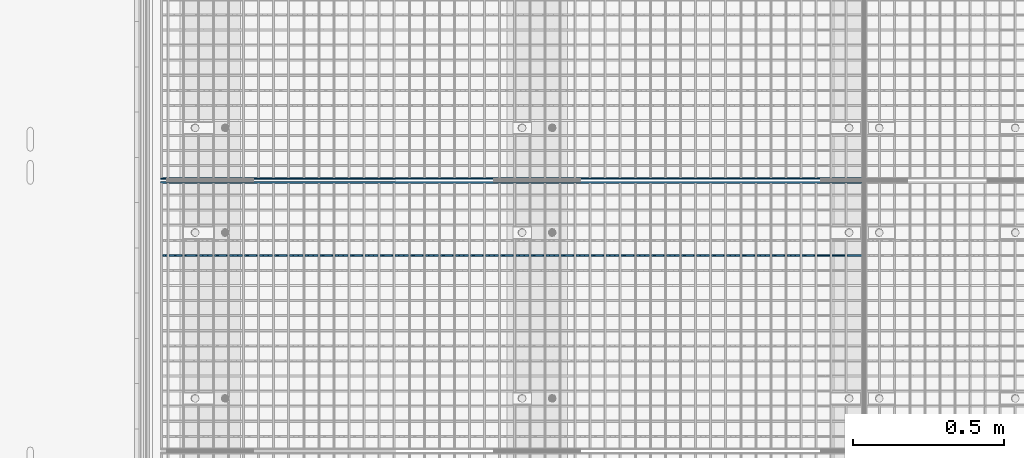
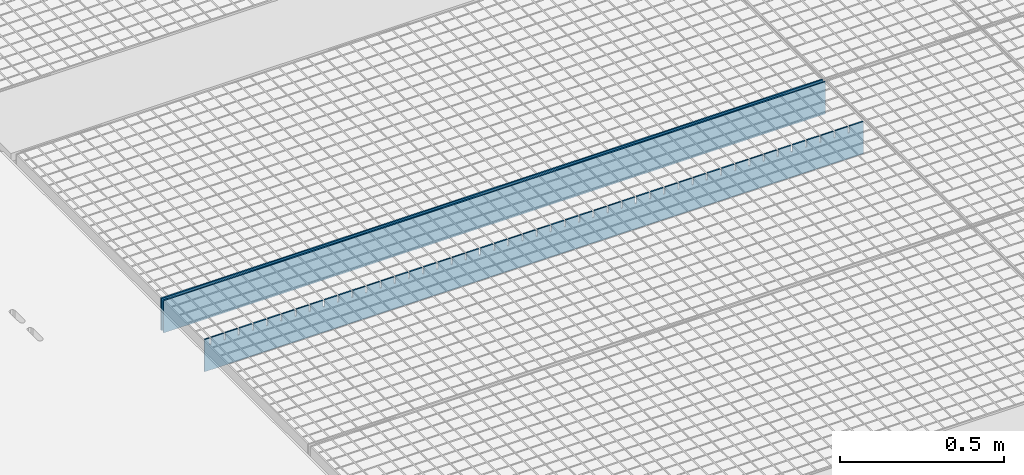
# One storey, part 307 of 1530: 3 beams.
"""IFC2X3 building model written with IfcOpenShell, lengths in millimetres."""

from ifc_helpers import new_model, si_unit, frame, origin_with_axes, place, context, subcontext, project, spatial, faceted_brep, material, type_object, element, save


model = new_model("IFC2X3")

# Units and contexts
model_context = context("Model", 3, precision=1e-05, world=origin_with_axes())
body_context = subcontext(model_context, "Body", "Model", "MODEL_VIEW")
ifc_project = project(units=[si_unit("LENGTHUNIT", "METRE", prefix="MILLI"), si_unit("AREAUNIT", "SQUARE_METRE"), si_unit("VOLUMEUNIT", "CUBIC_METRE"), si_unit("MASSUNIT", "GRAM", prefix="KILO"), si_unit("TIMEUNIT", "SECOND"), si_unit("PLANEANGLEUNIT", "RADIAN"), si_unit("SOLIDANGLEUNIT", "STERADIAN"), si_unit("THERMODYNAMICTEMPERATUREUNIT", "DEGREE_CELSIUS"), si_unit("LUMINOUSINTENSITYUNIT", "LUMEN")], contexts=[model_context])

# Site, building, storey
site_placement = place(None, origin_with_axes())
site = spatial("IfcSite", under=ifc_project, at=site_placement, Name="Brattvåg", CompositionType="ELEMENT")
building_placement = place(site_placement, origin_with_axes())
building = spatial("IfcBuilding", under=site, at=building_placement, Name="Undefined", CompositionType="ELEMENT")
storey_placement = place(building_placement, origin_with_axes())
storey = spatial("IfcBuildingStorey", under=building, at=storey_placement, Name="Undefined", CompositionType="ELEMENT", Elevation=0.0)

# Beams
ifc_material = material(Name="STEEL/S355J2")
beam_type = type_object("IfcBeamType", Name="120*5", PredefinedType="NOTDEFINED")
beam_placement = place(storey_placement, frame((2347.01317977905, 4699.9952545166, -59.9998626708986), z_axis=(0.0, 0.0, 1.0), x_axis=(-1.0, 1.99999855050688e-09, 0.0)))
element("IfcBeam", 1, at=beam_placement, inside=storey, type_object=beam_type, material=ifc_material, Name="GRATING", context=body_context, shape_type="Brep", body=[
    faceted_brep([(99.4490367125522, -2.50000000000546, 60.0000722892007), (99.4490367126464, -2.50000000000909, 35.0001373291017), (99.4490367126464, 2.50022888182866, 35.0001373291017), (99.4490367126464, 2.5, 60.0), (104.449036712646, -2.50000000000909, 35.0001373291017), (104.449036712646, 2.50022888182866, 35.0001373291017), (104.449036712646, -2.50000000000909, 60.0001373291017), (104.449036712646, 2.5, 60.0), (54.5084370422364, -2.50000000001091, 60.0001373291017), (54.5084370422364, 2.5, 60.0), (54.5084370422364, 2.49999999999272, 35.0001373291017), (54.5084370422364, -2.50000000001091, 35.0001373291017), (49.5084370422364, 2.49999999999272, 35.0001373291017), (49.5084370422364, -2.50000000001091, 35.0001373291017), (49.5084370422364, -2.5, 60.0), (49.5084370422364, 2.5, 60.0), (0.0, 2.5, 60.0), (0.0, -2.5, 60.0), (0.0, -2.5, -60.0), (0.0, 2.5, -60.0), (2319.99865722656, 2.5, -60.0), (2319.99865722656, -2.5, -60.0), (2319.99865722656, -2.5, 60.0), (2319.99865722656, 2.5, 60.0), (2302.24871932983, 2.5, 60.0), (2302.24871932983, -2.50000000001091, 60.0001373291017), (2302.24871932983, 2.49999999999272, 35.0001373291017), (2302.24871932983, -2.50000000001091, 35.0001373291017), (2297.24871932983, 2.49999999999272, 35.0001373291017), (2297.24871932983, -2.50000000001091, 35.0001373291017), (2297.24871932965, -2.50000000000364, 60.0000461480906), (2297.24871932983, 2.5, 60.0), (2252.29859649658, 2.5, 60.0), (2252.29859649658, -2.50000000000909, 60.0001373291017), (2252.29859649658, 2.50022888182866, 35.0001373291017), (2252.29859649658, -2.50000000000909, 35.0001373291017), (2247.29859649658, 2.50022888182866, 35.0001373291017), (2247.29859649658, -2.50000000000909, 35.0001373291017), (2247.29859649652, -2.50000000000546, 60.0000848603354), (2247.29859649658, 2.5, 60.0), (2202.34847366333, 2.5, 60.0), (2202.34847366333, -2.50000000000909, 60.0001373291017), (2202.34847366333, 2.50022888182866, 35.0001373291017), (2202.34847366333, -2.50000000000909, 35.0001373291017), (2197.34847366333, 2.50022888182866, 35.0001373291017), (2197.34847366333, -2.50000000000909, 35.0001373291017), (2197.34847366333, -2.5, 60.0), (2197.34847366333, 2.5, 60.0), (2152.39882766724, 2.5, 60.0), (2152.39882766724, -2.50000000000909, 60.0001373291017), (2152.39882766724, 2.50022888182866, 35.0001373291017), (2152.39882766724, -2.50000000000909, 35.0001373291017), (2147.39882766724, 2.50022888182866, 35.0001373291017), (2147.39882766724, -2.50000000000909, 35.0001373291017), (2147.39882766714, -2.50000000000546, 60.0000722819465), (2147.39882766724, 2.5, 60.0), (2102.44870483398, 2.5, 60.0), (2102.44870483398, -2.50000000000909, 60.0001373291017), (2102.44870483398, 2.50022888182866, 35.0001373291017), (2102.44870483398, -2.50000000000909, 35.0001373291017), (2097.44870483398, 2.50022888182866, 35.0001373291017), (2097.44870483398, -2.50000000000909, 35.0001373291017), (2097.44870483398, -2.5, 60.0), (2097.44870483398, 2.5, 60.0), (2052.49858200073, 2.5, 60.0), (2052.49858200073, -2.50000000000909, 60.0001373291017), (2052.49858200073, 2.50022888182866, 35.0001373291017), (2052.49858200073, -2.50000000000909, 35.0001373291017), (2047.49858200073, 2.50022888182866, 35.0001373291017), (2047.49858200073, -2.50000000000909, 35.0001373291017), (2047.49858200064, -2.50000000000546, 60.0000722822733), (2047.49858200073, 2.5, 60.0), (2002.54845916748, 2.5, 60.0), (2002.54845916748, -2.50000000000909, 60.0001373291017), (2002.54845916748, 2.50022888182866, 35.0001373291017), (2002.54845916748, -2.50000000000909, 35.0001373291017), (1997.54845916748, 2.50022888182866, 35.0001373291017), (1997.54845916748, -2.50000000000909, 35.0001373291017), (1997.54845916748, -2.5, 60.0), (1997.54845916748, 2.5, 60.0), (1952.59881317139, 2.5, 60.0), (1952.59881317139, -2.50000000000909, 60.0001373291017), (1952.59881317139, 2.50022888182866, 35.0001373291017), (1952.59881317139, -2.50000000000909, 35.0001373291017), (1947.59881317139, 2.50022888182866, 35.0001373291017), (1947.59881317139, -2.50000000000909, 35.0001373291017), (1947.59881317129, -2.50000000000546, 60.0000722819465), (1947.59881317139, 2.5, 60.0), (1902.64869033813, 2.5, 60.0), (1902.64869033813, -2.50000000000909, 60.0001373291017), (1902.64869033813, 2.50022888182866, 35.0001373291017), (1902.64869033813, -2.50000000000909, 35.0001373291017), (1897.64869033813, 2.50022888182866, 35.0001373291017), (1897.64869033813, -2.50000000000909, 35.0001373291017), (1897.64869033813, -2.5, 60.0), (1897.64869033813, 2.5, 60.0), (1852.69856750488, 2.5, 60.0), (1852.69856750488, -2.50000000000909, 60.0001373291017), (1852.69856750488, 2.50022888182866, 35.0001373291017), (1852.69856750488, -2.50000000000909, 35.0001373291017), (1847.69856750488, 2.50022888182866, 35.0001373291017), (1847.69856750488, -2.50000000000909, 35.0001373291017), (1847.69856750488, -2.5, 60.0), (1847.69856750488, 2.5, 60.0), (1802.74892150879, 2.5, 60.0), (1802.74892150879, -2.50000000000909, 60.0001373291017), (1802.74892150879, 2.50022888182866, 35.0001373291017), (1802.74892150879, -2.50000000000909, 35.0001373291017), (1797.74892150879, 2.50022888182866, 35.0001373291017), (1797.74892150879, -2.50000000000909, 35.0001373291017), (1797.74892150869, -2.50000000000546, 60.0000722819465), (1797.74892150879, 2.5, 60.0), (1752.79879867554, 2.5, 60.0), (1752.79879867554, -2.50000000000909, 60.0001373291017), (1752.79879867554, 2.50022888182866, 35.0001373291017), (1752.79879867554, -2.50000000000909, 35.0001373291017), (1747.79879867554, 2.50022888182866, 35.0001373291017), (1747.79879867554, -2.50000000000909, 35.0001373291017), (1747.79879867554, -2.5, 60.0), (1747.79879867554, 2.5, 60.0), (1702.84867584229, 2.5, 60.0), (1702.84867584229, -2.50000000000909, 60.0001373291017), (1702.84867584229, 2.50022888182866, 35.0001373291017), (1702.84867584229, -2.50000000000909, 35.0001373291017), (1697.84867584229, 2.50022888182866, 35.0001373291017), (1697.84867584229, -2.50000000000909, 35.0001373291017), (1697.84867584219, -2.50000000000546, 60.0000722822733), (1697.84867584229, 2.5, 60.0), (1652.89855300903, 2.5, 60.0), (1652.89855300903, -2.50000000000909, 60.0001373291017), (1652.89855300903, 2.50022888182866, 35.0001373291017), (1652.89855300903, -2.50000000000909, 35.0001373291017), (1647.89855300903, 2.50022888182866, 35.0001373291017), (1647.89855300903, -2.50000000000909, 35.0001373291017), (1647.89855300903, -2.5, 60.0), (1647.89855300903, 2.5, 60.0), (1602.94890701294, 2.5, 60.0), (1602.94890701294, -2.50000000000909, 60.0001373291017), (1602.94890701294, 2.50022888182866, 35.0001373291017), (1602.94890701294, -2.50000000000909, 35.0001373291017), (1597.94890701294, 2.50022888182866, 35.0001373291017), (1597.94890701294, -2.50000000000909, 35.0001373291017), (1597.94890701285, -2.50000000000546, 60.0000722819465), (1597.94890701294, 2.5, 60.0), (1552.99878417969, 2.5, 60.0), (1552.99878417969, -2.50000000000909, 60.0001373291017), (1552.99878417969, 2.50022888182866, 35.0001373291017), (1552.99878417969, -2.50000000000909, 35.0001373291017), (1547.99878417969, 2.50022888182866, 35.0001373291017), (1547.99878417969, -2.50000000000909, 35.0001373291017), (1547.99878417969, -2.5, 60.0), (1547.99878417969, 2.5, 60.0), (1503.04866134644, 2.5, 60.0), (1503.04866134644, -2.50000000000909, 60.0001373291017), (1503.04866134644, 2.50022888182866, 35.0001373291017), (1503.04866134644, -2.50000000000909, 35.0001373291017), (1498.04866134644, 2.50022888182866, 35.0001373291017), (1498.04866134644, -2.50000000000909, 35.0001373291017), (1498.04866134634, -2.50000000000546, 60.0000722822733), (1498.04866134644, 2.5, 60.0), (1453.09853851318, 2.5, 60.0), (1453.09853851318, -2.50000000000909, 60.0001373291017), (1453.09853851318, 2.50022888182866, 35.0001373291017), (1453.09853851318, -2.50000000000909, 35.0001373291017), (1448.09853851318, 2.50022888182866, 35.0001373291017), (1448.09853851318, -2.50000000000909, 35.0001373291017), (1448.09853851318, -2.5, 60.0), (1448.09853851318, 2.5, 60.0), (1403.14889251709, 2.5, 60.0), (1403.14889251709, -2.50000000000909, 60.0001373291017), (1403.14889251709, 2.50022888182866, 35.0001373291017), (1403.14889251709, -2.50000000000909, 35.0001373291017), (1398.14889251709, 2.50022888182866, 35.0001373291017), (1398.14889251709, -2.50000000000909, 35.0001373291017), (1398.148892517, -2.50000000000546, 60.0000722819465), (1398.14889251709, 2.5, 60.0), (1353.19876968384, 2.5, 60.0), (1353.19876968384, -2.50000000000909, 60.0001373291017), (1353.19876968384, 2.50022888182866, 35.0001373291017), (1353.19876968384, -2.50000000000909, 35.0001373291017), (1348.19876968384, 2.50022888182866, 35.0001373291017), (1348.19876968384, -2.50000000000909, 35.0001373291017), (1348.19876968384, -2.5, 60.0), (1348.19876968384, 2.5, 60.0), (1303.24864685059, 2.5, 60.0), (1303.24864685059, -2.50000000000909, 60.0001373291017), (1303.24864685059, 2.50022888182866, 35.0001373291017), (1303.24864685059, -2.50000000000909, 35.0001373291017), (1298.24864685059, 2.50022888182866, 35.0001373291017), (1298.24864685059, -2.50000000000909, 35.0001373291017), (1298.24864685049, -2.50000000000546, 60.0000722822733), (1298.24864685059, 2.5, 60.0), (1253.29852401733, 2.5, 60.0), (1253.29852401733, -2.50000000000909, 60.0001373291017), (1253.29852401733, 2.50022888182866, 35.0001373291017), (1253.29852401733, -2.50000000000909, 35.0001373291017), (1248.29852401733, 2.50022888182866, 35.0001373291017), (1248.29852401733, -2.50000000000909, 35.0001373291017), (1248.29852401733, -2.5, 60.0), (1248.29852401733, 2.5, 60.0), (1203.34887802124, 2.5, 60.0), (1203.34887802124, -2.50000000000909, 60.0001373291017), (1203.34887802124, 2.50022888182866, 35.0001373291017), (1203.34887802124, -2.50000000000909, 35.0001373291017), (1198.34887802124, 2.50022888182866, 35.0001373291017), (1198.34887802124, -2.50000000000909, 35.0001373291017), (1198.34887802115, -2.50000000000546, 60.0000722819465), (1198.34887802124, 2.5, 60.0), (1153.39875518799, 2.5, 60.0), (1153.39875518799, -2.50000000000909, 60.0001373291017), (1153.39875518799, 2.50022888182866, 35.0001373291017), (1153.39875518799, -2.50000000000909, 35.0001373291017), (1148.39875518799, 2.50022888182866, 35.0001373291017), (1148.39875518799, -2.50000000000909, 35.0001373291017), (1148.39875518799, -2.5, 60.0), (1148.39875518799, 2.5, 60.0), (1103.44863235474, 2.5, 60.0), (1103.44863235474, -2.50000000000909, 60.0001373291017), (1103.44863235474, 2.50022888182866, 35.0001373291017), (1103.44863235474, -2.50000000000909, 35.0001373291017), (1098.44863235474, 2.50022888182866, 35.0001373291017), (1098.44863235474, -2.50000000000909, 35.0001373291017), (1098.44863235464, -2.50000000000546, 60.0000722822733), (1098.44863235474, 2.5, 60.0), (1053.49850952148, 2.5, 60.0), (1053.49850952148, -2.50000000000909, 60.0001373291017), (1053.49850952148, 2.50022888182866, 35.0001373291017), (1053.49850952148, -2.50000000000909, 35.0001373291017), (1048.49850952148, 2.50022888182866, 35.0001373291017), (1048.49850952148, -2.50000000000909, 35.0001373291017), (1048.49850952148, -2.5, 60.0), (1048.49850952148, 2.5, 60.0), (1003.54886352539, 2.5, 60.0), (1003.54886352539, -2.50000000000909, 60.0001373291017), (1003.54886352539, 2.50022888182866, 35.0001373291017), (1003.54886352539, -2.50000000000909, 35.0001373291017), (998.548863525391, 2.50022888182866, 35.0001373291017), (998.548863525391, -2.50000000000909, 35.0001373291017), (998.548863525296, -2.50000000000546, 60.0000722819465), (998.548863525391, 2.5, 60.0), (953.598740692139, 2.5, 60.0), (953.598740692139, -2.50000000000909, 60.0001373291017), (953.598740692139, 2.50022888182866, 35.0001373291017), (953.598740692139, -2.50000000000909, 35.0001373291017), (948.598740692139, 2.50022888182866, 35.0001373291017), (948.598740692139, -2.50000000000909, 35.0001373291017), (948.598740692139, -2.5, 60.0), (948.598740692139, 2.5, 60.0), (903.648617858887, 2.5, 60.0), (903.648617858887, -2.50000000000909, 60.0001373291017), (903.648617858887, 2.50022888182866, 35.0001373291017), (903.648617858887, -2.50000000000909, 35.0001373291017), (898.648617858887, 2.50022888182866, 35.0001373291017), (898.648617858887, -2.50000000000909, 35.0001373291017), (898.648617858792, -2.50000000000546, 60.0000722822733), (898.648617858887, 2.5, 60.0), (853.698495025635, 2.5, 60.0), (853.698495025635, -2.50000000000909, 60.0001373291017), (853.698495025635, 2.50022888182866, 35.0001373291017), (853.698495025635, -2.50000000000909, 35.0001373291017), (848.698495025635, 2.50022888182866, 35.0001373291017), (848.698495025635, -2.50000000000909, 35.0001373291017), (848.698495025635, -2.5, 60.0), (848.698495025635, 2.5, 60.0), (803.748849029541, 2.5, 60.0), (803.748849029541, -2.50000000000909, 60.0001373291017), (803.748849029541, 2.50022888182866, 35.0001373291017), (803.748849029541, -2.50000000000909, 35.0001373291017), (798.748849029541, 2.50022888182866, 35.0001373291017), (798.748849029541, -2.50000000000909, 35.0001373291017), (798.748849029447, -2.50000000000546, 60.0000722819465), (798.748849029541, 2.5, 60.0), (753.798726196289, 2.5, 60.0), (753.798726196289, -2.50000000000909, 60.0001373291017), (753.798726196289, 2.50022888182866, 35.0001373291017), (753.798726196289, -2.50000000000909, 35.0001373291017), (748.798726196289, 2.50022888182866, 35.0001373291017), (748.798726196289, -2.50000000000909, 35.0001373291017), (748.798726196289, -2.5, 60.0), (748.798726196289, 2.5, 60.0), (703.848603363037, 2.5, 60.0), (703.848603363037, -2.50000000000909, 60.0001373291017), (703.848603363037, 2.50022888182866, 35.0001373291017), (703.848603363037, -2.50000000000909, 35.0001373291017), (698.848603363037, 2.50022888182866, 35.0001373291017), (698.848603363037, -2.50000000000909, 35.0001373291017), (698.848603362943, -2.50000000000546, 60.0000722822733), (698.848603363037, 2.5, 60.0), (653.898480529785, 2.5, 60.0), (653.898480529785, -2.50000000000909, 60.0001373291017), (653.898480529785, 2.50022888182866, 35.0001373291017), (653.898480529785, -2.50000000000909, 35.0001373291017), (648.898480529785, 2.50022888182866, 35.0001373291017), (648.898480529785, -2.50000000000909, 35.0001373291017), (648.898480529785, -2.5, 60.0), (648.898480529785, 2.5, 60.0), (603.948834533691, 2.5, 60.0), (603.948834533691, -2.50000000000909, 60.0001373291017), (603.948834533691, 2.50022888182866, 35.0001373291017), (603.948834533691, -2.50000000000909, 35.0001373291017), (598.948834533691, 2.50022888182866, 35.0001373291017), (598.948834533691, -2.50000000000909, 35.0001373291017), (598.948834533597, -2.50000000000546, 60.0000722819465), (598.948834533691, 2.5, 60.0), (553.998711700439, 2.5, 60.0), (553.998711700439, -2.50000000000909, 60.0001373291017), (553.998711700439, 2.50022888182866, 35.0001373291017), (553.998711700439, -2.50000000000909, 35.0001373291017), (548.998711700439, 2.50022888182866, 35.0001373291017), (548.998711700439, -2.50000000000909, 35.0001373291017), (548.998711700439, -2.5, 60.0), (548.998711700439, 2.5, 60.0), (504.048588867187, 2.5, 60.0), (504.048588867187, -2.50000000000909, 60.0001373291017), (504.048588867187, 2.50022888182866, 35.0001373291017), (504.048588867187, -2.50000000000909, 35.0001373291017), (499.048588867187, 2.50022888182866, 35.0001373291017), (499.048588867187, -2.50000000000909, 35.0001373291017), (499.048588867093, -2.50000000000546, 60.0000722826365), (499.048588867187, 2.5, 60.0), (454.098942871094, 2.5, 60.0), (454.098942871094, -2.50000000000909, 60.0001373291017), (454.098942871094, 2.50022888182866, 35.0001373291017), (454.098942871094, -2.50000000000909, 35.0001373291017), (449.098942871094, 2.50022888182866, 35.0001373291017), (449.098942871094, -2.50000000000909, 35.0001373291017), (449.098942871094, -2.5, 60.0), (449.098942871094, 2.5, 60.0), (404.148820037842, 2.5, 60.0), (404.148820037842, -2.50000000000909, 60.0001373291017), (404.148820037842, 2.50022888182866, 35.0001373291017), (404.148820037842, -2.50000000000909, 35.0001373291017), (399.148820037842, 2.50022888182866, 35.0001373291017), (399.148820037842, -2.50000000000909, 35.0001373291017), (399.148820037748, -2.50000000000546, 60.0000722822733), (399.148820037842, 2.5, 60.0), (354.19869720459, 2.5, 60.0), (354.19869720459, -2.50000000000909, 60.0001373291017), (354.19869720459, 2.50022888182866, 35.0001373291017), (354.19869720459, -2.50000000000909, 35.0001373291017), (349.19869720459, 2.50022888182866, 35.0001373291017), (349.19869720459, -2.50000000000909, 35.0001373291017), (349.19869720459, -2.5, 60.0), (349.19869720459, 2.5, 60.0), (304.248574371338, 2.5, 60.0), (304.248574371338, -2.50000000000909, 60.0001373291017), (304.248574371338, 2.50022888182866, 35.0001373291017), (304.248574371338, -2.50000000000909, 35.0001373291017), (299.248574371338, 2.50022888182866, 35.0001373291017), (299.248574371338, -2.50000000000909, 35.0001373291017), (299.248574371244, -2.50000000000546, 60.0000722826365), (299.248574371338, 2.5, 60.0), (254.298928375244, 2.5, 60.0), (254.298928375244, -2.50000000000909, 60.0001373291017), (254.298928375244, 2.50022888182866, 35.0001373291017), (254.298928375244, -2.50000000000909, 35.0001373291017), (249.298928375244, 2.50022888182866, 35.0001373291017), (249.298928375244, -2.50000000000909, 35.0001373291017), (249.298928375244, -2.5, 60.0), (249.298928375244, 2.5, 60.0), (204.348328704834, 2.5, 60.0), (204.348328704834, -2.50000000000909, 60.0001373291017), (204.348328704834, 2.50022888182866, 35.0001373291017), (204.348328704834, -2.50000000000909, 35.0001373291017), (199.348328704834, 2.50022888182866, 35.0001373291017), (199.348328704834, -2.50000000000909, 35.0001373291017), (199.34832870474, -2.50000000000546, 60.0000722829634), (199.348328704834, 2.5, 60.0), (154.39868270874, 2.5, 60.0), (154.39868270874, -2.50000000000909, 60.0001373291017), (154.39868270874, 2.50022888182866, 35.0001373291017), (154.39868270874, -2.50000000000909, 35.0001373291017), (149.39868270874, 2.50022888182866, 35.0001373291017), (149.39868270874, -2.50000000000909, 35.0001373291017), (149.39868270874, -2.5, 60.0), (149.39868270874, 2.5, 60.0)], [[[0, 1, 2, 3]], [[4, 5, 2, 1]], [[6, 7, 5, 4]], [[8, 9, 10, 11]], [[11, 10, 12, 13]], [[14, 13, 12, 15]], [[16, 17, 14, 15]], [[18, 17, 16, 19]], [[18, 19, 20, 21]], [[22, 21, 20, 23]], [[22, 23, 24, 25]], [[25, 24, 26, 27]], [[27, 26, 28, 29]], [[30, 29, 28, 31]], [[32, 33, 30, 31]], [[33, 32, 34, 35]], [[35, 34, 36, 37]], [[38, 37, 36, 39]], [[40, 41, 38, 39]], [[41, 40, 42, 43]], [[43, 42, 44, 45]], [[46, 45, 44, 47]], [[46, 47, 48, 49]], [[49, 48, 50, 51]], [[51, 50, 52, 53]], [[54, 53, 52, 55]], [[56, 57, 54, 55]], [[57, 56, 58, 59]], [[59, 58, 60, 61]], [[62, 61, 60, 63]], [[62, 63, 64, 65]], [[65, 64, 66, 67]], [[67, 66, 68, 69]], [[70, 69, 68, 71]], [[72, 73, 70, 71]], [[73, 72, 74, 75]], [[75, 74, 76, 77]], [[78, 77, 76, 79]], [[78, 79, 80, 81]], [[81, 80, 82, 83]], [[83, 82, 84, 85]], [[86, 85, 84, 87]], [[88, 89, 86, 87]], [[89, 88, 90, 91]], [[91, 90, 92, 93]], [[94, 93, 92, 95]], [[94, 95, 96, 97]], [[97, 96, 98, 99]], [[99, 98, 100, 101]], [[102, 101, 100, 103]], [[102, 103, 104, 105]], [[105, 104, 106, 107]], [[107, 106, 108, 109]], [[110, 109, 108, 111]], [[112, 113, 110, 111]], [[113, 112, 114, 115]], [[115, 114, 116, 117]], [[118, 117, 116, 119]], [[118, 119, 120, 121]], [[121, 120, 122, 123]], [[123, 122, 124, 125]], [[126, 125, 124, 127]], [[128, 129, 126, 127]], [[129, 128, 130, 131]], [[131, 130, 132, 133]], [[134, 133, 132, 135]], [[134, 135, 136, 137]], [[137, 136, 138, 139]], [[139, 138, 140, 141]], [[142, 141, 140, 143]], [[144, 145, 142, 143]], [[145, 144, 146, 147]], [[147, 146, 148, 149]], [[150, 149, 148, 151]], [[150, 151, 152, 153]], [[153, 152, 154, 155]], [[155, 154, 156, 157]], [[158, 157, 156, 159]], [[160, 161, 158, 159]], [[161, 160, 162, 163]], [[163, 162, 164, 165]], [[166, 165, 164, 167]], [[166, 167, 168, 169]], [[169, 168, 170, 171]], [[171, 170, 172, 173]], [[174, 173, 172, 175]], [[176, 177, 174, 175]], [[177, 176, 178, 179]], [[179, 178, 180, 181]], [[182, 181, 180, 183]], [[182, 183, 184, 185]], [[185, 184, 186, 187]], [[187, 186, 188, 189]], [[190, 189, 188, 191]], [[192, 193, 190, 191]], [[193, 192, 194, 195]], [[195, 194, 196, 197]], [[198, 197, 196, 199]], [[198, 199, 200, 201]], [[201, 200, 202, 203]], [[203, 202, 204, 205]], [[206, 205, 204, 207]], [[208, 209, 206, 207]], [[209, 208, 210, 211]], [[211, 210, 212, 213]], [[214, 213, 212, 215]], [[214, 215, 216, 217]], [[217, 216, 218, 219]], [[219, 218, 220, 221]], [[222, 221, 220, 223]], [[224, 225, 222, 223]], [[225, 224, 226, 227]], [[227, 226, 228, 229]], [[230, 229, 228, 231]], [[230, 231, 232, 233]], [[233, 232, 234, 235]], [[235, 234, 236, 237]], [[238, 237, 236, 239]], [[240, 241, 238, 239]], [[241, 240, 242, 243]], [[243, 242, 244, 245]], [[246, 245, 244, 247]], [[246, 247, 248, 249]], [[249, 248, 250, 251]], [[251, 250, 252, 253]], [[254, 253, 252, 255]], [[256, 257, 254, 255]], [[257, 256, 258, 259]], [[259, 258, 260, 261]], [[262, 261, 260, 263]], [[262, 263, 264, 265]], [[265, 264, 266, 267]], [[267, 266, 268, 269]], [[270, 269, 268, 271]], [[272, 273, 270, 271]], [[273, 272, 274, 275]], [[275, 274, 276, 277]], [[278, 277, 276, 279]], [[278, 279, 280, 281]], [[281, 280, 282, 283]], [[283, 282, 284, 285]], [[286, 285, 284, 287]], [[288, 289, 286, 287]], [[289, 288, 290, 291]], [[291, 290, 292, 293]], [[294, 293, 292, 295]], [[294, 295, 296, 297]], [[297, 296, 298, 299]], [[299, 298, 300, 301]], [[302, 301, 300, 303]], [[304, 305, 302, 303]], [[305, 304, 306, 307]], [[307, 306, 308, 309]], [[310, 309, 308, 311]], [[310, 311, 312, 313]], [[313, 312, 314, 315]], [[315, 314, 316, 317]], [[318, 317, 316, 319]], [[320, 321, 318, 319]], [[321, 320, 322, 323]], [[323, 322, 324, 325]], [[326, 325, 324, 327]], [[326, 327, 328, 329]], [[329, 328, 330, 331]], [[331, 330, 332, 333]], [[334, 333, 332, 335]], [[336, 337, 334, 335]], [[337, 336, 338, 339]], [[339, 338, 340, 341]], [[342, 341, 340, 343]], [[342, 343, 344, 345]], [[345, 344, 346, 347]], [[347, 346, 348, 349]], [[350, 349, 348, 351]], [[352, 353, 350, 351]], [[353, 352, 354, 355]], [[355, 354, 356, 357]], [[358, 357, 356, 359]], [[358, 359, 360, 361]], [[361, 360, 362, 363]], [[363, 362, 364, 365]], [[366, 365, 364, 367]], [[368, 369, 366, 367]], [[369, 368, 370, 371]], [[371, 370, 372, 373]], [[374, 373, 372, 375]], [[1, 0, 8, 11, 13, 14, 17, 18, 21, 22, 25, 27, 29, 30, 33, 35, 37, 38, 41, 43, 45, 46, 49, 51, 53, 54, 57, 59, 61, 62, 65, 67, 69, 70, 73, 75, 77, 78, 81, 83, 85, 86, 89, 91, 93, 94, 97, 99, 101, 102, 105, 107, 109, 110, 113, 115, 117, 118, 121, 123, 125, 126, 129, 131, 133, 134, 137, 139, 141, 142, 145, 147, 149, 150, 153, 155, 157, 158, 161, 163, 165, 166, 169, 171, 173, 174, 177, 179, 181, 182, 185, 187, 189, 190, 193, 195, 197, 198, 201, 203, 205, 206, 209, 211, 213, 214, 217, 219, 221, 222, 225, 227, 229, 230, 233, 235, 237, 238, 241, 243, 245, 246, 249, 251, 253, 254, 257, 259, 261, 262, 265, 267, 269, 270, 273, 275, 277, 278, 281, 283, 285, 286, 289, 291, 293, 294, 297, 299, 301, 302, 305, 307, 309, 310, 313, 315, 317, 318, 321, 323, 325, 326, 329, 331, 333, 334, 337, 339, 341, 342, 345, 347, 349, 350, 353, 355, 357, 358, 361, 363, 365, 366, 369, 371, 373, 374, 6, 4]], [[9, 8, 0, 3]], [[375, 372, 370, 368, 367, 364, 362, 360, 359, 356, 354, 352, 351, 348, 346, 344, 343, 340, 338, 336, 335, 332, 330, 328, 327, 324, 322, 320, 319, 316, 314, 312, 311, 308, 306, 304, 303, 300, 298, 296, 295, 292, 290, 288, 287, 284, 282, 280, 279, 276, 274, 272, 271, 268, 266, 264, 263, 260, 258, 256, 255, 252, 250, 248, 247, 244, 242, 240, 239, 236, 234, 232, 231, 228, 226, 224, 223, 220, 218, 216, 215, 212, 210, 208, 207, 204, 202, 200, 199, 196, 194, 192, 191, 188, 186, 184, 183, 180, 178, 176, 175, 172, 170, 168, 167, 164, 162, 160, 159, 156, 154, 152, 151, 148, 146, 144, 143, 140, 138, 136, 135, 132, 130, 128, 127, 124, 122, 120, 119, 116, 114, 112, 111, 108, 106, 104, 103, 100, 98, 96, 95, 92, 90, 88, 87, 84, 82, 80, 79, 76, 74, 72, 71, 68, 66, 64, 63, 60, 58, 56, 55, 52, 50, 48, 47, 44, 42, 40, 39, 36, 34, 32, 31, 28, 26, 24, 23, 20, 19, 16, 15, 12, 10, 9, 3, 2, 5, 7]], [[374, 375, 7, 6]]]),
])
for number, where, z_axis, x_axis, name in (
    (2, (2352.00899291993, 4941.49917602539, -59.9998626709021), (0.0, 0.0, 1.0), (-1.0, 1.99999855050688e-09, 0.0), "GRATING"),
    (3, (22.010671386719, 4955.49868774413, -59.9998626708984), (0.0, 0.0, 1.0), (1.0, 0.0, 0.0), "GRATING"),
):
    element("IfcBeam", number, at=place(storey_placement, frame(where, z_axis=z_axis, x_axis=x_axis)), inside=storey, type_object=beam_type, material=ifc_material, Name=name, context=body_context, shape_type="Brep", body=[
        faceted_brep([(0.0, 2.5, -60.0), (0.0, 2.5, 60.0), (2329.99832153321, 2.5, 60.0), (2329.99832153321, 2.5, -60.0), (0.0, -2.5, 60.0), (2329.99832153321, -2.5, 60.0), (0.0, -2.5, -60.0), (2329.99832153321, -2.5, -60.0)], [[[0, 1, 2, 3]], [[1, 4, 5, 2]], [[4, 6, 7, 5]], [[6, 0, 3, 7]], [[5, 7, 3, 2]], [[6, 4, 1, 0]]]),
    ])

save(model, "model.ifc")
